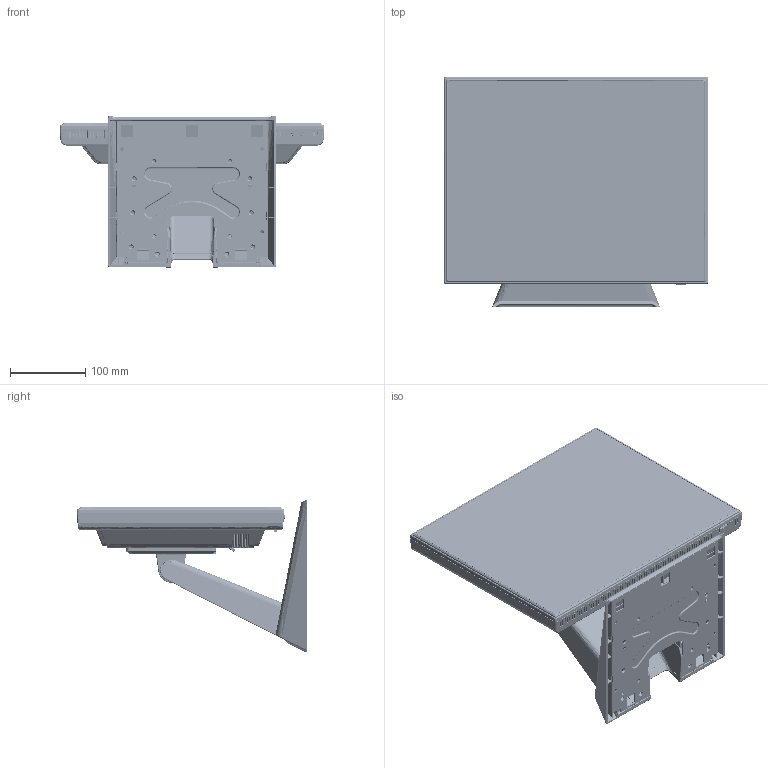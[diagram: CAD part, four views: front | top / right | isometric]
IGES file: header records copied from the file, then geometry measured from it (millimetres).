
Start section: SolidWorks IGES file using analytic representation for surfaces
Global section: file name: C:\Users\jcordisco\Documents\Projects\Monitor\Final\PT1545P\997-7413-01_A_PT1545P.IGS; native system: SolidWorks 2019; preprocessor: SolidWorks 2019; author: jcordisco; date: 210727.092951; units: millimetre
Bounding box: 350.8 x 305.42 x 201.98 mm (x, y, z)
Surface area: 1153033.6 mm2 (no closed solid volume)
Topology: 0 solids, 0 shells, 14054 faces, 114816 edges, 114730 vertices
Faces by surface type: bspline 9124, revolution 4930
